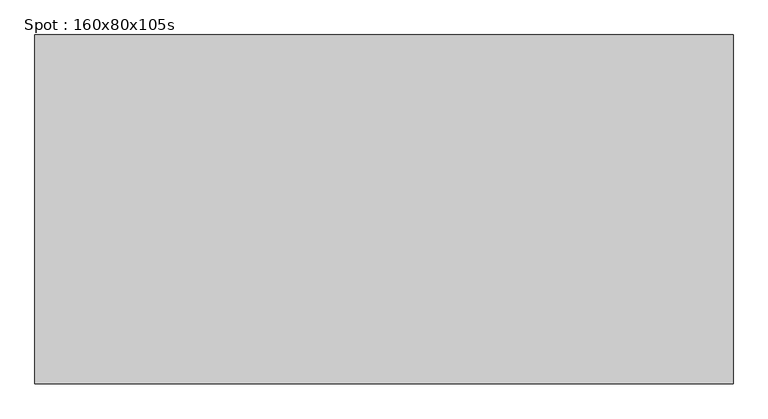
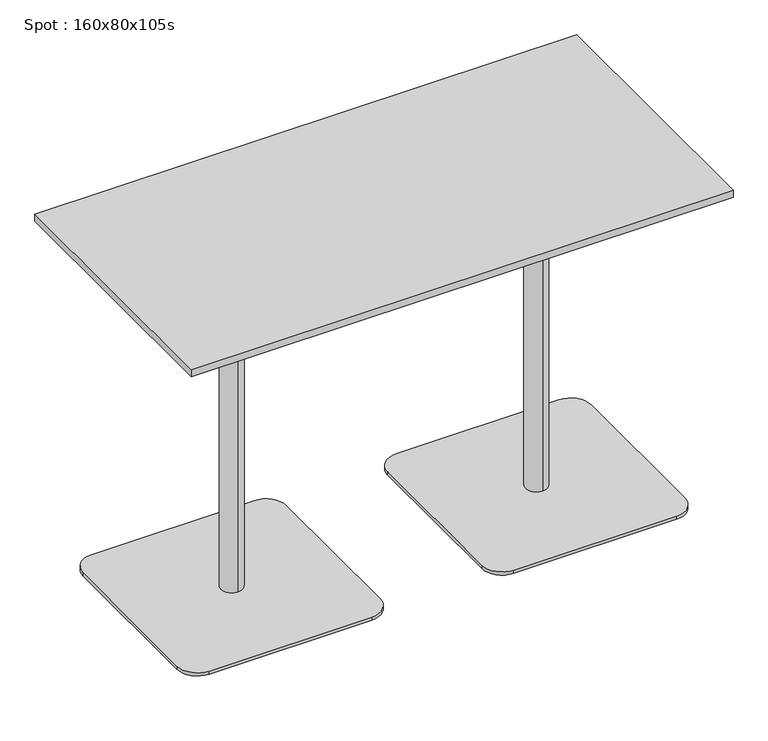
"""IFC4 building model written with IfcOpenShell, lengths in millimetres: furniture geometry, Spot : 160x80x105s."""

import ifcopenshell
import ifcopenshell.guid

model = None  # the IFC model being written
_history = None  # IfcOwnerHistory: only IFC2X3 demands one
_inside = {}  # id of a spatial element -> (the spatial element, [elements in it])
_under = {}  # id of a project, library or spatial element -> (it, [spatial elements below it])
_declared = {}  # id of a project -> (the project, [libraries it declares])
_typed = {}  # id of a type object -> (the type object, [elements of that type])
_made_of = {}  # id of a material, layer set ... -> (it, [elements and type objects made of it])


def new_model(schema):
    """Start an empty IFC model of exactly this schema.

    Asked for "IFC4X3", IfcOpenShell would pick the latest addendum, in which some entities
    have other attributes; the version numbers below select the first issue.
    IFC2X3 requires an IfcOwnerHistory on every rooted entity: one is made here for all.
    """
    global model, _history
    if schema == "IFC4X3":
        model = ifcopenshell.file(schema_version=(4, 3, 0, 0))
    else:
        model = ifcopenshell.file(schema=schema)
    _inside.clear()
    _under.clear()
    _declared.clear()
    _typed.clear()
    _made_of.clear()
    _history = None
    if model.schema == "IFC2X3":
        org = make("IfcOrganization", Name="unknown")
        user = make(
            "IfcPersonAndOrganization",
            ThePerson=make("IfcPerson", FamilyName="unknown"),
            TheOrganization=org,
        )
        app = make(
            "IfcApplication",
            ApplicationDeveloper=org,
            Version="unknown",
            ApplicationFullName="unknown",
            ApplicationIdentifier="unknown",
        )
        _history = make(
            "IfcOwnerHistory",
            OwningUser=user,
            OwningApplication=app,
            ChangeAction="ADDED",
            CreationDate=0,
        )
    return model


def make(cls, **values):
    """One entity of the class cls with the attributes given. An attribute that is None is left unset."""
    return model.create_entity(
        cls, **{name: value for name, value in values.items() if value is not None}
    )


def rooted(cls, **values):
    """An entity with a GlobalId (a new one), such as an element, a storey or a relation."""
    return make(cls, GlobalId=ifcopenshell.guid.new(), OwnerHistory=_history, **values)


def si_unit(unit_type, name, prefix=None):
    """IfcSIUnit, for example si_unit("LENGTHUNIT", "METRE", prefix="MILLI")."""
    return make("IfcSIUnit", UnitType=unit_type, Prefix=prefix, Name=name)


def assignment(units):
    """IfcUnitAssignment: the units of a project."""
    return None if units is None else make("IfcUnitAssignment", Units=units)


def point(xyz):
    """IfcCartesianPoint."""
    return None if xyz is None else make("IfcCartesianPoint", Coordinates=xyz)


def direction(xyz):
    """IfcDirection."""
    return None if xyz is None else make("IfcDirection", DirectionRatios=xyz)


def frame(location, z_axis=None, x_axis=None):
    """IfcAxis2Placement3D, a coordinate frame: its origin and axes. An axis left out is left unset."""
    return make(
        "IfcAxis2Placement3D",
        Location=point(location),
        Axis=direction(z_axis),
        RefDirection=direction(x_axis),
    )


def frame_2d(location, x_axis=None):
    """IfcAxis2Placement2D, a coordinate frame in the plane: its origin and x axis."""
    return make(
        "IfcAxis2Placement2D", Location=point(location), RefDirection=direction(x_axis)
    )


def origin():
    """The frame at (0, 0, 0) with its axes left unset."""
    return frame((0.0, 0.0, 0.0))


def origin_with_axes():
    """The frame at (0, 0, 0) with the z axis (0, 0, 1) and the x axis (1, 0, 0) written out."""
    return frame((0.0, 0.0, 0.0), z_axis=(0.0, 0.0, 1.0), x_axis=(1.0, 0.0, 0.0))


def place(relative_to, where):
    """IfcLocalPlacement: puts the frame where relative to a parent placement (None: the world)."""
    return make(
        "IfcLocalPlacement", PlacementRelTo=relative_to, RelativePlacement=where
    )


def context(
    kind, dimensions, precision=None, world=None, true_north=None, identifier=None
):
    """IfcGeometricRepresentationContext, for example the 3D "Model" context."""
    return make(
        "IfcGeometricRepresentationContext",
        ContextIdentifier=identifier,
        ContextType=kind,
        CoordinateSpaceDimension=dimensions,
        Precision=precision,
        WorldCoordinateSystem=world,
        TrueNorth=true_north,
    )


def project(units=None, contexts=None):
    """IfcProject with its units and contexts."""
    return rooted(
        "IfcProject",
        Name="project",
        RepresentationContexts=contexts,
        UnitsInContext=assignment(units),
    )


def spatial(cls, under=None, at=None, **own):
    """A site, building, storey or space (cls), placed at a placement, below another one or the project."""
    s = rooted(cls, ObjectPlacement=at, **own)
    if under is not None:
        _under.setdefault(under.id(), (under, []))[1].append(s)
    return s


def polyline(points):
    """IfcPolyline through the points."""
    return make("IfcPolyline", Points=[point(p) for p in points])


def circle_curve(where, radius):
    """IfcCircle in the frame where."""
    return make("IfcCircle", Position=where, Radius=radius)


def trimmed(basis, trim1, trim2, sense, master):
    """IfcTrimmedCurve: the piece of a basis curve between two trims."""
    return make(
        "IfcTrimmedCurve",
        BasisCurve=basis,
        Trim1=trim1,
        Trim2=trim2,
        SenseAgreement=sense,
        MasterRepresentation=master,
    )


def segment(curve, same_sense, transition):
    """IfcCompositeCurveSegment."""
    return make(
        "IfcCompositeCurveSegment",
        Transition=transition,
        SameSense=same_sense,
        ParentCurve=curve,
    )


def composite_curve(segments, self_intersect=None):
    """IfcCompositeCurve: segments joined end to end."""
    return make("IfcCompositeCurve", Segments=segments, SelfIntersect=self_intersect)


def outline(outer, holes=None, kind="AREA"):
    """IfcArbitraryClosedProfileDef: a profile drawn as a closed curve; with holes, ...WithVoids."""
    if holes is None:
        return make("IfcArbitraryClosedProfileDef", ProfileType=kind, OuterCurve=outer)
    return make(
        "IfcArbitraryProfileDefWithVoids",
        ProfileType=kind,
        OuterCurve=outer,
        InnerCurves=holes,
    )


def extrude(swept, where, along, depth):
    """IfcExtrudedAreaSolid: the profile swept, set in the frame where, extruded along a direction by depth."""
    return make(
        "IfcExtrudedAreaSolid",
        SweptArea=swept,
        Position=where,
        ExtrudedDirection=direction(along),
        Depth=depth,
    )


def shape(context_of_items, identifier, shape_type, items):
    """IfcShapeRepresentation: the items that make up one representation, for example the "Body"."""
    return make(
        "IfcShapeRepresentation",
        ContextOfItems=context_of_items,
        RepresentationIdentifier=identifier,
        RepresentationType=shape_type,
        Items=items,
    )


def source(mapping_origin, context_of_items, identifier, shape_type, items):
    """IfcRepresentationMap: a shape defined once, which mapped items show again and again."""
    return make(
        "IfcRepresentationMap",
        MappingOrigin=mapping_origin,
        MappedRepresentation=shape(context_of_items, identifier, shape_type, items),
    )


def transform(
    local_origin,
    x_axis=None,
    y_axis=None,
    z_axis=None,
    scale=None,
    scale2=None,
    scale3=None,
    uniform=True,
):
    """IfcCartesianTransformationOperator3D, or its non-uniform kind. x_axis, y_axis, z_axis: its Axis1, 2, 3."""
    if uniform:
        return make(
            "IfcCartesianTransformationOperator3D",
            Axis1=direction(x_axis),
            Axis2=direction(y_axis),
            LocalOrigin=point(local_origin),
            Scale=scale,
            Axis3=direction(z_axis),
        )
    return make(
        "IfcCartesianTransformationOperator3DnonUniform",
        Axis1=direction(x_axis),
        Axis2=direction(y_axis),
        LocalOrigin=point(local_origin),
        Scale=scale,
        Axis3=direction(z_axis),
        Scale2=scale2,
        Scale3=scale3,
    )


def mapped(mapping_source, mapping_target):
    """IfcMappedItem: shows the shape of a source again, moved by a transform."""
    return make(
        "IfcMappedItem", MappingSource=mapping_source, MappingTarget=mapping_target
    )


def made_of(thing, what):
    """Note that an element or type object is made of a material, layer set ...; save() writes the relation."""
    if what is not None:
        _made_of.setdefault(what.id(), (what, []))[1].append(thing)
    return thing


def element(
    cls,
    number,
    at=None,
    inside=None,
    cuts=None,
    type_object=None,
    material=None,
    context=None,
    identifier="Body",
    shape_type=None,
    held_by="IfcProductDefinitionShape",
    body=None,
    shapes=None,
    **own,
):
    """One element of the class cls, such as IfcWall. Its Tag is "e" and its number.

    at: its placement. inside: the storey or other place that contains it. cuts: it is an
    opening in that element (IfcRelVoidsElement). A single representation is given by context,
    identifier, shape_type and body (its items); several are given by shapes. held_by: the class
    of the entity that holds the representations. save() writes the other relations.
    """
    e = rooted(cls, Tag="e%d" % number, ObjectPlacement=at, **own)
    if body is not None:
        shapes = [shape(context, identifier, shape_type, body)]
    if shapes is not None:
        e.Representation = make(held_by, Representations=shapes)
    if inside is not None:
        _inside.setdefault(inside.id(), (inside, []))[1].append(e)
    if cuts is not None:
        rooted(
            "IfcRelVoidsElement", RelatingBuildingElement=cuts, RelatedOpeningElement=e
        )
    if type_object is not None:
        _typed.setdefault(type_object.id(), (type_object, []))[1].append(e)
    return made_of(e, material)


def aggregate(whole, parts):
    """IfcRelAggregates: a whole, such as a stair, and the parts it consists of."""
    return rooted("IfcRelAggregates", RelatingObject=whole, RelatedObjects=parts)


def save(model, path):
    """Write the relations noted so far, then the file.

    IfcRelAggregates (storeys below a building ...), IfcRelContainedInSpatialStructure (elements
    in a storey), IfcRelDefinesByType, IfcRelAssociatesMaterial and IfcRelDeclares: one each for
    every whole, place, type object, material and project.
    """
    for whole, parts in _under.values():
        aggregate(whole, parts)
    for where, things in _inside.values():
        rooted(
            "IfcRelContainedInSpatialStructure",
            RelatedElements=things,
            RelatingStructure=where,
        )
    for kind, things in _typed.values():
        rooted("IfcRelDefinesByType", RelatedObjects=things, RelatingType=kind)
    for what, things in _made_of.values():
        rooted("IfcRelAssociatesMaterial", RelatedObjects=things, RelatingMaterial=what)
    for by, libraries in _declared.values():
        rooted("IfcRelDeclares", RelatingContext=by, RelatedDefinitions=libraries)
    model.write(path)


def plane_surface(at):
    """IfcPlane: the flat surface through the origin of the frame at, square to its z axis."""
    return make("IfcPlane", Position=at)


def cylinder_surface(at, radius):
    """IfcCylindricalSurface: all points at the distance radius from the z axis of the frame at."""
    return make("IfcCylindricalSurface", Position=at, Radius=radius)


def revolved_surface(curve, axis_point, axis_direction):
    """IfcSurfaceOfRevolution: the curve turned about the line through axis_point along axis_direction."""
    return make(
        "IfcSurfaceOfRevolution",
        SweptCurve=make("IfcArbitraryOpenProfileDef", ProfileType="CURVE", Curve=curve),
        AxisPosition=make("IfcAxis1Placement", Location=point(axis_point), Axis=direction(axis_direction)),
    )


def advanced_brep(points, edges, surfaces, faces):
    """IfcAdvancedBrep: a solid bounded by faces that lie on surfaces and meet in shared edges.

    An edge is (start, end): straight between two places in points (the first is 0);
    or (start, end, curve); or (start, end, curve, False) where it runs against its curve.
    A face is (place in surfaces, loops), or (place, loops, False) where it looks against
    its surface's normal. A loop lists edges by number (the first is 1), with a minus sign
    where the edge is run from its end to its start. The first loop is the outer one.
    """
    corners = [point(p) for p in points]
    vertices = [make("IfcVertexPoint", VertexGeometry=c) for c in corners]
    made = []
    for start, end, *more in edges:
        made.append(
            make(
                "IfcEdgeCurve",
                EdgeStart=vertices[start],
                EdgeEnd=vertices[end],
                EdgeGeometry=more[0] if more else make("IfcPolyline", Points=[corners[start], corners[end]]),
                SameSense=more[1] if len(more) > 1 else True,
            )
        )
    hull = []
    for where, loops, *sense in faces:
        bounds = []
        for j, loop in enumerate(loops):
            ring = [make("IfcOrientedEdge", EdgeElement=made[abs(k) - 1], Orientation=k > 0) for k in loop]
            bounds.append(
                make(
                    "IfcFaceOuterBound" if j == 0 else "IfcFaceBound",
                    Bound=make("IfcEdgeLoop", EdgeList=ring),
                    Orientation=True,
                )
            )
        hull.append(make("IfcAdvancedFace", Bounds=bounds, FaceSurface=surfaces[where], SameSense=sense[0] if sense else True))
    return make("IfcAdvancedBrep", Outer=make("IfcClosedShell", CfsFaces=hull))


def spot_160x80x105s_a1666378(model_context):
    return source(origin(), model_context, "Body", "SolidModel", [
        extrude(outline(polyline([(800.0, 400.0), (800.0, -400.0), (-800.0, -400.0), (-800.0, 400.0), (800.0, 400.0)])), frame((0.0, 0.0, 1028.0), z_axis=(0.0, 0.0, 1.0), x_axis=(1.0, 0.0, 0.0)), (0.0, 0.0, 1.0), 22.0),
        extrude(outline(composite_curve([segment(trimmed(circle_curve(frame_2d((-210.0, 240.0)), 60.0), [point((-210.0, 300.0))], [point((-150.0, 240.0))], False, "CARTESIAN"), True, "CONTINUOUS"), segment(polyline([(-150.0, 240.0), (-150.0, -240.0)]), True, "CONTINUOUS"), segment(trimmed(circle_curve(frame_2d((-210.0, -240.0)), 60.0), [point((-150.0, -240.0))], [point((-210.0, -300.0))], False, "CARTESIAN"), True, "CONTINUOUS"), segment(polyline([(-210.0, -300.0), (-690.0, -300.0)]), True, "CONTINUOUS"), segment(trimmed(circle_curve(frame_2d((-690.0, -240.0)), 60.0), [point((-690.0, -300.0))], [point((-750.0, -240.0))], False, "CARTESIAN"), True, "CONTINUOUS"), segment(polyline([(-750.0, -240.0), (-750.0, 240.0)]), True, "CONTINUOUS"), segment(trimmed(circle_curve(frame_2d((-690.0, 240.0)), 60.0), [point((-750.0, 240.0))], [point((-690.0, 300.0))], False, "CARTESIAN"), True, "CONTINUOUS"), segment(polyline([(-690.0, 300.0), (-210.0, 300.0)]), True, "CONTINUOUS")], self_intersect=False)), origin_with_axes(), (0.0, 0.0, 1.0), 10.0),
        advanced_brep(
        [(-450.0, 32.0, 10.0), (-450.0, -32.0, 10.0), (-450.0, -32.0, 997.406916), (-450.0, 32.0, 997.406916), (-450.0, 0.0, 10.0), (-450.0, 150.0, 1028.0), (-450.0, -150.0, 1028.0), (-450.0, 0.0, 1028.0), (-450.0, 150.0, 1016.7213673), (-450.0, -150.0, 1016.7213673)],
        [
            (0, 1, circle_curve(frame((-450.0, 0.0, 10.0), z_axis=(0.0, 0.0, 1.0), x_axis=(0.0, -1.0, 0.0)), 32.0)),
            (1, 2),
            (2, 3, circle_curve(frame((-450.0, 0.0, 997.406916), z_axis=(0.0, 0.0, -1.0), x_axis=(0.0, -1.0, 0.0)), 32.0)),
            (3, 0),
            (1, 0, circle_curve(frame((-450.0, 0.0, 10.0), z_axis=(0.0, 0.0, 1.0), x_axis=(0.0, -1.0, 0.0)), 32.0)),
            (3, 2, circle_curve(frame((-450.0, 0.0, 997.406916), z_axis=(0.0, 0.0, -1.0), x_axis=(0.0, -1.0, 0.0)), 32.0)),
            (4, 1),
            (0, 4),
            (5, 6, circle_curve(frame((-450.0, 0.0, 1028.0), z_axis=(0.0, 0.0, 1.0), x_axis=(0.0, -1.0, 0.0)), 150.0)),
            (6, 7),
            (7, 5),
            (6, 5, circle_curve(frame((-450.0, 0.0, 1028.0), z_axis=(0.0, 0.0, 1.0), x_axis=(0.0, -1.0, 0.0)), 150.0)),
            (8, 9, circle_curve(frame((-450.0, 0.0, 1016.7213673), z_axis=(0.0, 0.0, 1.0), x_axis=(0.0, -1.0, 0.0)), 150.0)),
            (9, 6),
            (5, 8),
            (9, 8, circle_curve(frame((-450.0, 0.0, 1016.7213673), z_axis=(0.0, 0.0, 1.0), x_axis=(0.0, -1.0, 0.0)), 150.0)),
            (2, 9),
            (8, 3),
        ],
        [
            cylinder_surface(frame((-450.0, 0.0, 1390.0), z_axis=(0.0, 0.0, -1.0), x_axis=(0.0, -1.0, 0.0)), 32.0),
            plane_surface(frame((-450.0, 0.0, 10.0), z_axis=(0.0, 0.0, -1.0), x_axis=(0.0, -1.0, 0.0))),
            plane_surface(frame((-450.0, 0.0, 1028.0), z_axis=(0.0, 0.0, 1.0), x_axis=(0.0, -1.0, 0.0))),
            cylinder_surface(frame((-450.0, 0.0, 1390.0), z_axis=(0.0, 0.0, -1.0), x_axis=(0.0, -1.0, 0.0)), 150.0),
            revolved_surface(polyline([(-450.0, -150.0, 1016.7213673), (-450.0, -32.0, 997.406916)]), (-450.0, 0.0, 1390.0), (0.0, 0.0, -1.0)),
        ],
        [
            (0, [[1, 2, 3, 4]]),
            (0, [[5, -4, 6, -2]]),
            (1, [[7, -1, 8]]),
            (1, [[-8, -5, -7]]),
            (2, [[9, 10, 11]]),
            (2, [[12, -11, -10]]),
            (3, [[13, 14, -9, 15]]),
            (3, [[16, -15, -12, -14]]),
            (4, [[-3, 17, -13, 18]]),
            (4, [[-6, -18, -16, -17]]),
        ],
    ),
        extrude(outline(polyline([(-450.0, 0.0), (-470.0, 0.0), (-470.0, 20.0), (-450.0, 20.0), (-450.0, 0.0)])), origin_with_axes(), (0.0, 0.0, 1.0), 10.0),
        extrude(outline(composite_curve([segment(trimmed(circle_curve(frame_2d((690.0, 240.0)), 60.0), [point((690.0, 300.0))], [point((750.0, 240.0))], False, "CARTESIAN"), True, "CONTINUOUS"), segment(polyline([(750.0, 240.0), (750.0, -240.0)]), True, "CONTINUOUS"), segment(trimmed(circle_curve(frame_2d((690.0, -240.0)), 60.0), [point((750.0, -240.0))], [point((690.0, -300.0))], False, "CARTESIAN"), True, "CONTINUOUS"), segment(polyline([(690.0, -300.0), (210.0, -300.0)]), True, "CONTINUOUS"), segment(trimmed(circle_curve(frame_2d((210.0, -240.0)), 60.0), [point((210.0, -300.0))], [point((150.0, -240.0))], False, "CARTESIAN"), True, "CONTINUOUS"), segment(polyline([(150.0, -240.0), (150.0, 240.0)]), True, "CONTINUOUS"), segment(trimmed(circle_curve(frame_2d((210.0, 240.0)), 60.0), [point((150.0, 240.0))], [point((210.0, 300.0))], False, "CARTESIAN"), True, "CONTINUOUS"), segment(polyline([(210.0, 300.0), (690.0, 300.0)]), True, "CONTINUOUS")], self_intersect=False)), origin_with_axes(), (0.0, 0.0, 1.0), 10.0),
        advanced_brep(
        [(450.0, 32.0, 10.0), (450.0, -32.0, 10.0), (450.0, -32.0, 997.406916), (450.0, 32.0, 997.406916), (450.0, 0.0, 10.0), (450.0, 150.0, 1028.0), (450.0, -150.0, 1028.0), (450.0, 0.0, 1028.0), (450.0, 150.0, 1016.7213673), (450.0, -150.0, 1016.7213673)],
        [
            (0, 1, circle_curve(frame((450.0, 0.0, 10.0), z_axis=(0.0, 0.0, 1.0), x_axis=(0.0, -1.0, 0.0)), 32.0)),
            (1, 2),
            (2, 3, circle_curve(frame((450.0, 0.0, 997.406916), z_axis=(0.0, 0.0, -1.0), x_axis=(0.0, -1.0, 0.0)), 32.0)),
            (3, 0),
            (1, 0, circle_curve(frame((450.0, 0.0, 10.0), z_axis=(0.0, 0.0, 1.0), x_axis=(0.0, -1.0, 0.0)), 32.0)),
            (3, 2, circle_curve(frame((450.0, 0.0, 997.406916), z_axis=(0.0, 0.0, -1.0), x_axis=(0.0, -1.0, 0.0)), 32.0)),
            (4, 1),
            (0, 4),
            (5, 6, circle_curve(frame((450.0, 0.0, 1028.0), z_axis=(0.0, 0.0, 1.0), x_axis=(0.0, -1.0, 0.0)), 150.0)),
            (6, 7),
            (7, 5),
            (6, 5, circle_curve(frame((450.0, 0.0, 1028.0), z_axis=(0.0, 0.0, 1.0), x_axis=(0.0, -1.0, 0.0)), 150.0)),
            (8, 9, circle_curve(frame((450.0, 0.0, 1016.7213673), z_axis=(0.0, 0.0, 1.0), x_axis=(0.0, -1.0, 0.0)), 150.0)),
            (9, 6),
            (5, 8),
            (9, 8, circle_curve(frame((450.0, 0.0, 1016.7213673), z_axis=(0.0, 0.0, 1.0), x_axis=(0.0, -1.0, 0.0)), 150.0)),
            (2, 9),
            (8, 3),
        ],
        [
            cylinder_surface(frame((450.0, 0.0, 1390.0), z_axis=(0.0, 0.0, -1.0), x_axis=(0.0, -1.0, 0.0)), 32.0),
            plane_surface(frame((450.0, 0.0, 10.0), z_axis=(0.0, 0.0, -1.0), x_axis=(0.0, -1.0, 0.0))),
            plane_surface(frame((450.0, 0.0, 1028.0), z_axis=(0.0, 0.0, 1.0), x_axis=(0.0, -1.0, 0.0))),
            cylinder_surface(frame((450.0, 0.0, 1390.0), z_axis=(0.0, 0.0, -1.0), x_axis=(0.0, -1.0, 0.0)), 150.0),
            revolved_surface(polyline([(450.0, -150.0, 1016.7213673), (450.0, -32.0, 997.406916)]), (450.0, 0.0, 1390.0), (0.0, 0.0, -1.0)),
        ],
        [
            (0, [[1, 2, 3, 4]]),
            (0, [[5, -4, 6, -2]]),
            (1, [[7, -1, 8]]),
            (1, [[-8, -5, -7]]),
            (2, [[9, 10, 11]]),
            (2, [[12, -11, -10]]),
            (3, [[13, 14, -9, 15]]),
            (3, [[16, -15, -12, -14]]),
            (4, [[-3, 17, -13, 18]]),
            (4, [[-6, -18, -16, -17]]),
        ],
    ),
        extrude(outline(polyline([(450.0, 0.0), (430.0, 0.0), (430.0, 20.0), (450.0, 20.0), (450.0, 0.0)])), origin_with_axes(), (0.0, 0.0, 1.0), 10.0),
    ])


if __name__ == "__main__":
    model = new_model("IFC4")
    model_context = context("Model", 3, world=origin())
    ifc_project = project(units=[si_unit("LENGTHUNIT", "METRE", prefix="MILLI")], contexts=[model_context])
    site = spatial("IfcSite", under=ifc_project)
    building = spatial("IfcBuilding", under=site)
    placement = place(None, origin())
    spot_160x80x105s_shape = spot_160x80x105s_a1666378(model_context)
    element("IfcFurniture", 1, ObjectType="Spot : 160x80x105s", at=placement, inside=building, context=model_context, shape_type="MappedRepresentation", body=[
        mapped(spot_160x80x105s_shape, transform((0.0, 0.0, 0.0), x_axis=(1.0, 0.0, 0.0), y_axis=(0.0, 1.0, 0.0), z_axis=(0.0, 0.0, 1.0))),
    ])
    save(model, "model.ifc")
